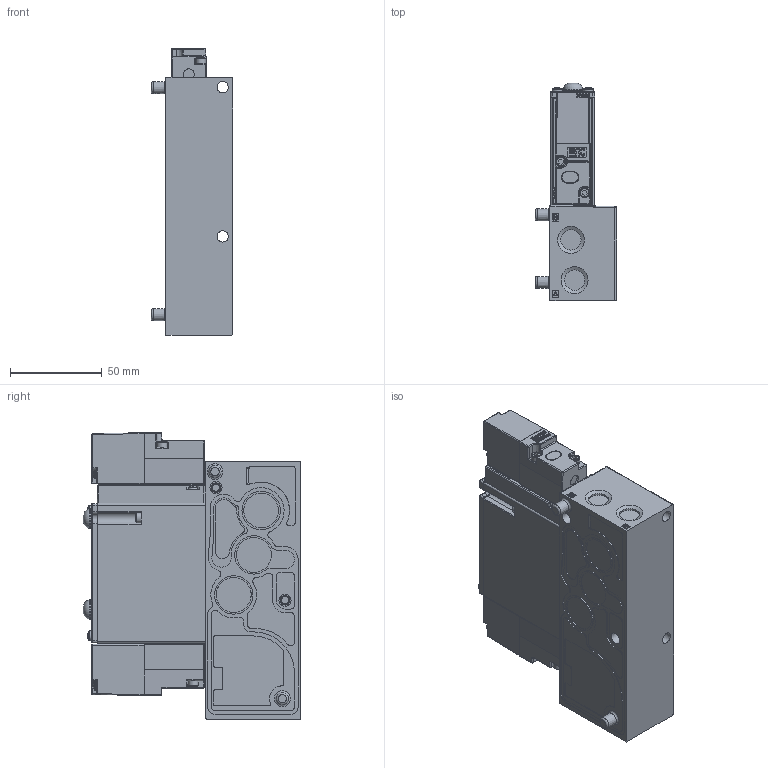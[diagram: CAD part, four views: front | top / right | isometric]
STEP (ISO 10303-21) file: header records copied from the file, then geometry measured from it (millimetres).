
FILE_DESCRIPTION (( 'STEP AP214' ), '1' );
FILE_NAME ('92A-BAA-B3K-DM-DXXP-1DM.STEP', '2019-07-05T15:22:27', ( 'user' ), ( '' ), 'SwSTEP 2.0', 'SolidWorks 2014', '' );
FILE_SCHEMA (( 'AUTOMOTIVE_DESIGN' ));
Length unit declared in the file: millimetre
Products named in the file (6): 92-PILOT-DM3; 92-BODY-BAA; 92-OVERRIDE-1; 92-OPERATOR-DXXP-YDM; 92-BASE-B3J; 92A-BAA-B3K-DM-DXXP-1DM
Assembly tree (8 placements, depth 2):
  92A-BAA-B3K-DM-DXXP-1DM
    92-BASE-B3J
    92-OPERATOR-DXXP-YDM  x2
    92-OVERRIDE-1  x2
    92-BODY-BAA
    92-PILOT-DM3  x2
Bounding box: 44.5 x 118.6 x 156.5 mm (x, y, z)
Volume: 438536.6 mm3; surface area: 92532.8 mm2
Topology: 37 solids, 37 shells, 3002 faces, 7722 edges, 5010 vertices
Faces by surface type: plane 1665, cylinder 851, cone 275, bspline 98, torus 60, sphere 53
Full cylindrical faces by diameter (mm): 0.01 x4, 0.72 x2, 0.85 x2, 0.95 x4, 1 x2, 2 x4, 2.2 x2, 2.4 x6, 2.5 x2, 2.6 x4, 2.7 x2, 2.79 x4, 3 x10, 3.15 x4, 3.25 x4, 3.3 x4, 3.35 x4, 4.775 x4, 5 x36, 5.1 x2, 5.25 x2, 5.5 x10, 5.6 x2, 6.185 x2, 6.22 x2, 6.6 x2, 6.8 x4, 6.92 x2, 7 x2, 8.5 x2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
Entity records: 99749 total; most frequent: CARTESIAN_POINT 20936, DIRECTION 11079, ORIENTED_EDGE 11028, EDGE_CURVE 5514, AXIS2_PLACEMENT_3D 3780, VERTEX_POINT 3703, LINE 3519, VECTOR 3519
